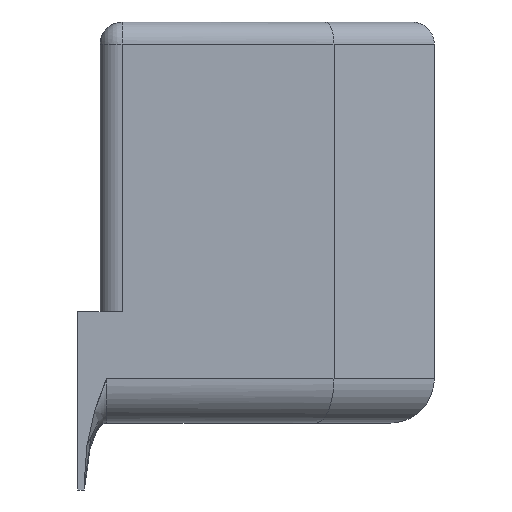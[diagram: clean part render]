
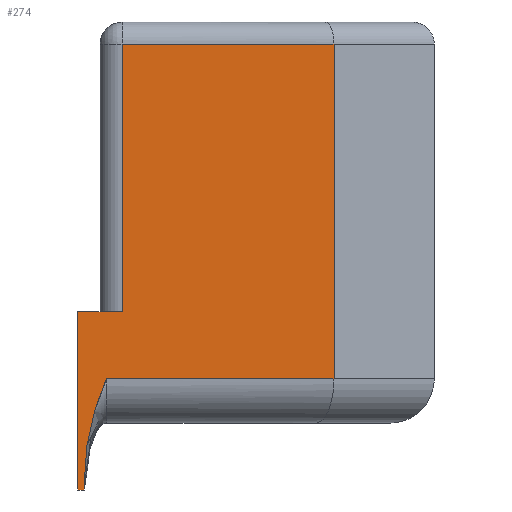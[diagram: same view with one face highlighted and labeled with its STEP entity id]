
A CAD part, left-side view. The second image highlights one B-rep face of the part: STEP entity #274.
In plain terms, the highlighted planar face has unit normal (-1, 0, 0).
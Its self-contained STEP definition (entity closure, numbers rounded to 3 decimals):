
#7 = LINE ( 'NONE', #1158, #1766 ) ;
#14 = CARTESIAN_POINT ( 'NONE',  ( -21.5, 0.7, -8. ) ) ;
#15 = EDGE_CURVE ( 'NONE', #189, #1499, #1776, .T. ) ;
#26 = CARTESIAN_POINT ( 'NONE',  ( -21.5, 0.7, -7.583 ) ) ;
#45 = ORIENTED_EDGE ( 'NONE', *, *, #1559, .T. ) ;
#51 = CARTESIAN_POINT ( 'NONE',  ( -21.5, 0.674, -6.795 ) ) ;
#56 = CARTESIAN_POINT ( 'NONE',  ( -21.5, 0.525, -5.622 ) ) ;
#68 = VERTEX_POINT ( 'NONE', #1303 ) ;
#70 = CARTESIAN_POINT ( 'NONE',  ( -21.5, 0.695, -7.188 ) ) ;
#176 = CARTESIAN_POINT ( 'NONE',  ( -21.5, -10.5, 12. ) ) ;
#189 = VERTEX_POINT ( 'NONE', #176 ) ;
#195 = DIRECTION ( 'NONE',  ( 0., 0., 1. ) ) ;
#202 = VECTOR ( 'NONE', #1627, 1000. ) ;
#208 = EDGE_CURVE ( 'NONE', #189, #1792, #1033, .T. ) ;
#228 = VECTOR ( 'NONE', #195, 1000. ) ;
#274 = ADVANCED_FACE ( 'NONE', ( #1560 ), #1005, .F. ) ;
#283 = LINE ( 'NONE', #1884, #770 ) ;
#308 = CARTESIAN_POINT ( 'NONE',  ( -21.5, -1., 13. ) ) ;
#313 = VECTOR ( 'NONE', #1100, 1000. ) ;
#323 = EDGE_CURVE ( 'NONE', #1321, #68, #1850, .T. ) ;
#334 = DIRECTION ( 'NONE',  ( 0., 1., 0. ) ) ;
#379 = CARTESIAN_POINT ( 'NONE',  ( -21.5, -1., 12. ) ) ;
#427 = DIRECTION ( 'NONE',  ( 0., -1., 0. ) ) ;
#454 = AXIS2_PLACEMENT_3D ( 'NONE', #703, #1895, #1545 ) ;
#460 = ORIENTED_EDGE ( 'NONE', *, *, #2109, .T. ) ;
#551 = VECTOR ( 'NONE', #1665, 1000. ) ;
#576 = CARTESIAN_POINT ( 'NONE',  ( -21.5, 0.333, -4.767 ) ) ;
#594 = CARTESIAN_POINT ( 'NONE',  ( -21.5, 0.658, -6.601 ) ) ;
#603 = CARTESIAN_POINT ( 'NONE',  ( -21.5, -10.5, 13. ) ) ;
#669 = VERTEX_POINT ( 'NONE', #982 ) ;
#703 = CARTESIAN_POINT ( 'NONE',  ( -21.5, 0., 13. ) ) ;
#762 = CARTESIAN_POINT ( 'NONE',  ( -21.5, 0.615, -6.205 ) ) ;
#767 = CARTESIAN_POINT ( 'NONE',  ( -21.5, -0.124, -3.423 ) ) ;
#770 = VECTOR ( 'NONE', #848, 1000. ) ;
#848 = DIRECTION ( 'NONE',  ( 0., 1., 0. ) ) ;
#849 = VERTEX_POINT ( 'NONE', #1219 ) ;
#914 = CARTESIAN_POINT ( 'NONE',  ( -21.5, 0.128, -4.114 ) ) ;
#922 = EDGE_CURVE ( 'NONE', #2202, #669, #949, .T. ) ;
#941 = CARTESIAN_POINT ( 'NONE',  ( -21.5, 0., -3. ) ) ;
#949 = LINE ( 'NONE', #1929, #228 ) ;
#954 = ORIENTED_EDGE ( 'NONE', *, *, #922, .F. ) ;
#982 = CARTESIAN_POINT ( 'NONE',  ( -21.5, 1., 0. ) ) ;
#990 = ORIENTED_EDGE ( 'NONE', *, *, #2105, .F. ) ;
#1005 = PLANE ( 'NONE',  #454 ) ;
#1033 = LINE ( 'NONE', #1686, #1807 ) ;
#1049 = ORIENTED_EDGE ( 'NONE', *, *, #15, .F. ) ;
#1088 = CARTESIAN_POINT ( 'NONE',  ( -21.5, 0.7, -7.385 ) ) ;
#1100 = DIRECTION ( 'NONE',  ( 0., 0., -1. ) ) ;
#1140 = ORIENTED_EDGE ( 'NONE', *, *, #208, .T. ) ;
#1158 = CARTESIAN_POINT ( 'NONE',  ( -21.5, 0.7, -8. ) ) ;
#1164 = EDGE_CURVE ( 'NONE', #1321, #1700, #1638, .T. ) ;
#1219 = CARTESIAN_POINT ( 'NONE',  ( -21.5, -1., 0. ) ) ;
#1251 = CARTESIAN_POINT ( 'NONE',  ( -21.5, 0.589, -6.009 ) ) ;
#1258 = CARTESIAN_POINT ( 'NONE',  ( -21.5, 0.141, -4.152 ) ) ;
#1265 = CARTESIAN_POINT ( 'NONE',  ( -21.5, -0.3, -3. ) ) ;
#1279 = CARTESIAN_POINT ( 'NONE',  ( -21.5, 0.133, -4.128 ) ) ;
#1303 = CARTESIAN_POINT ( 'NONE',  ( -21.5, -0.3, -3. ) ) ;
#1321 = VERTEX_POINT ( 'NONE', #1366 ) ;
#1366 = CARTESIAN_POINT ( 'NONE',  ( -21.5, 0.7, -7.583 ) ) ;
#1444 = CARTESIAN_POINT ( 'NONE',  ( -21.5, -10.5, -3. ) ) ;
#1447 = CARTESIAN_POINT ( 'NONE',  ( -21.5, 0.017, -3.791 ) ) ;
#1499 = VERTEX_POINT ( 'NONE', #1444 ) ;
#1508 = CARTESIAN_POINT ( 'NONE',  ( -21.5, 0.7, -3. ) ) ;
#1523 = ORIENTED_EDGE ( 'NONE', *, *, #1650, .T. ) ;
#1545 = DIRECTION ( 'NONE',  ( 0., 1., 0. ) ) ;
#1559 = EDGE_CURVE ( 'NONE', #68, #1499, #2191, .T. ) ;
#1560 = FACE_OUTER_BOUND ( 'NONE', #1566, .T. ) ;
#1566 = EDGE_LOOP ( 'NONE', ( #1049, #1140, #460, #1523, #954, #990, #1594, #2095, #45 ) ) ;
#1589 = CARTESIAN_POINT ( 'NONE',  ( -21.5, 0.488, -5.428 ) ) ;
#1594 = ORIENTED_EDGE ( 'NONE', *, *, #1164, .F. ) ;
#1595 = CARTESIAN_POINT ( 'NONE',  ( -21.5, 0.153, -4.187 ) ) ;
#1627 = DIRECTION ( 'NONE',  ( 0., 0., -1. ) ) ;
#1638 = LINE ( 'NONE', #1508, #202 ) ;
#1650 = EDGE_CURVE ( 'NONE', #849, #669, #283, .T. ) ;
#1665 = DIRECTION ( 'NONE',  ( 0., 0., -1. ) ) ;
#1686 = CARTESIAN_POINT ( 'NONE',  ( -21.5, 0., 12. ) ) ;
#1700 = VERTEX_POINT ( 'NONE', #14 ) ;
#1745 = CARTESIAN_POINT ( 'NONE',  ( -21.5, 0.234, -4.436 ) ) ;
#1764 = CARTESIAN_POINT ( 'NONE',  ( -21.5, 0.181, -4.27 ) ) ;
#1766 = VECTOR ( 'NONE', #2196, 1000. ) ;
#1769 = VECTOR ( 'NONE', #427, 1000. ) ;
#1776 = LINE ( 'NONE', #603, #313 ) ;
#1777 = CARTESIAN_POINT ( 'NONE',  ( -21.5, 0.404, -5.051 ) ) ;
#1792 = VERTEX_POINT ( 'NONE', #379 ) ;
#1799 = LINE ( 'NONE', #308, #551 ) ;
#1807 = VECTOR ( 'NONE', #334, 1000. ) ;
#1850 = B_SPLINE_CURVE_WITH_KNOTS ( 'NONE', 3,
 ( #26, #1088, #70, #51, #594, #762, #1251, #56, #1589, #1777, #576, #1745, #1764, #1595, #1258, #1279, #914, #1447, #767, #1265 ),
 .UNSPECIFIED., .F., .F.,
 ( 4, 2, 2, 2, 2, 1, 1, 1, 1, 2, 2, 4 ),
 ( 0., 0.125, 0.25, 0.375, 0.5, 0.625, 0.688, 0.719, 0.734, 0.742, 0.75, 1. ),
 .UNSPECIFIED. ) ;
#1884 = CARTESIAN_POINT ( 'NONE',  ( -21.5, 0., 0. ) ) ;
#1890 = CARTESIAN_POINT ( 'NONE',  ( -21.5, 1., -8. ) ) ;
#1895 = DIRECTION ( 'NONE',  ( 1., 0., 0. ) ) ;
#1929 = CARTESIAN_POINT ( 'NONE',  ( -21.5, 1., -5. ) ) ;
#2095 = ORIENTED_EDGE ( 'NONE', *, *, #323, .T. ) ;
#2105 = EDGE_CURVE ( 'NONE', #1700, #2202, #7, .T. ) ;
#2109 = EDGE_CURVE ( 'NONE', #1792, #849, #1799, .T. ) ;
#2191 = LINE ( 'NONE', #941, #1769 ) ;
#2196 = DIRECTION ( 'NONE',  ( 0., 1., 0. ) ) ;
#2202 = VERTEX_POINT ( 'NONE', #1890 ) ;
